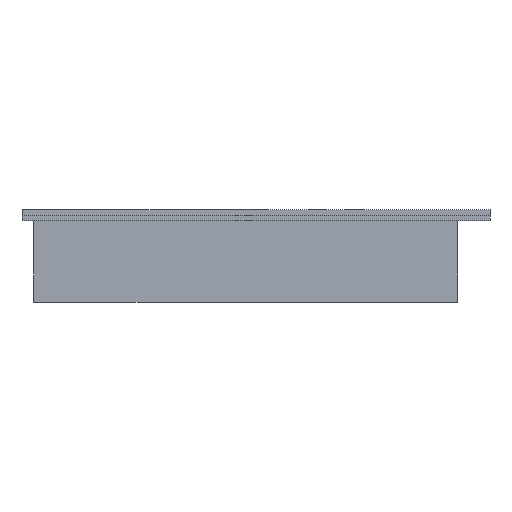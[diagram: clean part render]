
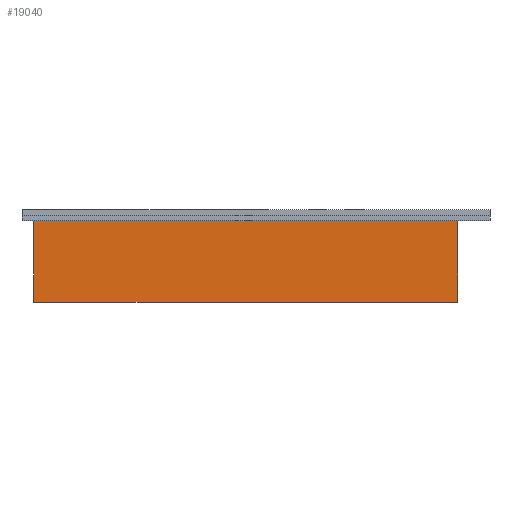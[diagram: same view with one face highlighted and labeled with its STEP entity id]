
A CAD part, left-side view. The second image highlights one B-rep face of the part: STEP entity #19040.
In plain terms, the highlighted planar face has unit normal (-1, 0, 0).
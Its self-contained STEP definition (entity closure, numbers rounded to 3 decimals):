
#159 = PLANE('',#160);
#160 = AXIS2_PLACEMENT_3D('',#161,#162,#163);
#161 = CARTESIAN_POINT('',(-0.3,-75.35,15.6));
#162 = DIRECTION('',(0.,0.,1.));
#163 = DIRECTION('',(1.,0.,0.));
#8325 = VERTEX_POINT('',#8326);
#8326 = CARTESIAN_POINT('',(-0.2,-70.,15.6));
#8339 = PLANE('',#8340);
#8340 = AXIS2_PLACEMENT_3D('',#8341,#8342,#8343);
#8341 = CARTESIAN_POINT('',(-0.2,-70.,1.9));
#8342 = DIRECTION('',(0.,1.,0.));
#8343 = DIRECTION('',(0.,0.,1.));
#8350 = EDGE_CURVE('',#8325,#8351,#8353,.T.);
#8351 = VERTEX_POINT('',#8352);
#8352 = CARTESIAN_POINT('',(-0.2,0.,15.6));
#8353 = SURFACE_CURVE('',#8354,(#8358,#8364),.PCURVE_S1.);
#8354 = LINE('',#8355,#8356);
#8355 = CARTESIAN_POINT('',(-0.2,-72.675,15.6));
#8356 = VECTOR('',#8357,1.);
#8357 = DIRECTION('',(0.,1.,0.));
#8358 = PCURVE('',#159,#8359);
#8359 = DEFINITIONAL_REPRESENTATION('',(#8360),#8363);
#8360 = B_SPLINE_CURVE_WITH_KNOTS('',1,(#8361,#8362),.UNSPECIFIED.,.F.,
  .F.,(2,2),(2.675,72.675),.PIECEWISE_BEZIER_KNOTS.);
#8361 = CARTESIAN_POINT('',(0.1,5.35));
#8362 = CARTESIAN_POINT('',(0.1,75.35));
#8363 = ( GEOMETRIC_REPRESENTATION_CONTEXT(2) 
PARAMETRIC_REPRESENTATION_CONTEXT() REPRESENTATION_CONTEXT('2D SPACE',''
  ) );
#8364 = PCURVE('',#8365,#8370);
#8365 = PLANE('',#8366);
#8366 = AXIS2_PLACEMENT_3D('',#8367,#8368,#8369);
#8367 = CARTESIAN_POINT('',(-0.2,-70.,1.9));
#8368 = DIRECTION('',(1.,0.,0.));
#8369 = DIRECTION('',(0.,0.,1.));
#8370 = DEFINITIONAL_REPRESENTATION('',(#8371),#8374);
#8371 = B_SPLINE_CURVE_WITH_KNOTS('',1,(#8372,#8373),.UNSPECIFIED.,.F.,
  .F.,(2,2),(2.675,72.675),.PIECEWISE_BEZIER_KNOTS.);
#8372 = CARTESIAN_POINT('',(13.7,0.));
#8373 = CARTESIAN_POINT('',(13.7,-70.));
#8374 = ( GEOMETRIC_REPRESENTATION_CONTEXT(2) 
PARAMETRIC_REPRESENTATION_CONTEXT() REPRESENTATION_CONTEXT('2D SPACE',''
  ) );
#8391 = PLANE('',#8392);
#8392 = AXIS2_PLACEMENT_3D('',#8393,#8394,#8395);
#8393 = CARTESIAN_POINT('',(-0.2,0.,1.9));
#8394 = DIRECTION('',(0.,1.,0.));
#8395 = DIRECTION('',(0.,0.,1.));
#18943 = VERTEX_POINT('',#18944);
#18944 = CARTESIAN_POINT('',(-0.2,-70.,1.9));
#18958 = PLANE('',#18959);
#18959 = AXIS2_PLACEMENT_3D('',#18960,#18961,#18962);
#18960 = CARTESIAN_POINT('',(-0.2,-70.,1.9));
#18961 = DIRECTION('',(0.,0.,1.));
#18962 = DIRECTION('',(1.,0.,0.));
#18970 = EDGE_CURVE('',#18943,#8325,#18971,.T.);
#18971 = SURFACE_CURVE('',#18972,(#18976,#18983),.PCURVE_S1.);
#18972 = LINE('',#18973,#18974);
#18973 = CARTESIAN_POINT('',(-0.2,-70.,1.9));
#18974 = VECTOR('',#18975,1.);
#18975 = DIRECTION('',(0.,0.,1.));
#18976 = PCURVE('',#8339,#18977);
#18977 = DEFINITIONAL_REPRESENTATION('',(#18978),#18982);
#18978 = LINE('',#18979,#18980);
#18979 = CARTESIAN_POINT('',(0.,0.));
#18980 = VECTOR('',#18981,1.);
#18981 = DIRECTION('',(1.,0.));
#18982 = ( GEOMETRIC_REPRESENTATION_CONTEXT(2) 
PARAMETRIC_REPRESENTATION_CONTEXT() REPRESENTATION_CONTEXT('2D SPACE',''
  ) );
#18983 = PCURVE('',#8365,#18984);
#18984 = DEFINITIONAL_REPRESENTATION('',(#18985),#18989);
#18985 = LINE('',#18986,#18987);
#18986 = CARTESIAN_POINT('',(0.,0.));
#18987 = VECTOR('',#18988,1.);
#18988 = DIRECTION('',(1.,0.));
#18989 = ( GEOMETRIC_REPRESENTATION_CONTEXT(2) 
PARAMETRIC_REPRESENTATION_CONTEXT() REPRESENTATION_CONTEXT('2D SPACE',''
  ) );
#19040 = ADVANCED_FACE('',(#19041),#8365,.F.);
#19041 = FACE_BOUND('',#19042,.F.);
#19042 = EDGE_LOOP('',(#19043,#19044,#19067,#19088));
#19043 = ORIENTED_EDGE('',*,*,#18970,.F.);
#19044 = ORIENTED_EDGE('',*,*,#19045,.T.);
#19045 = EDGE_CURVE('',#18943,#19046,#19048,.T.);
#19046 = VERTEX_POINT('',#19047);
#19047 = CARTESIAN_POINT('',(-0.2,0.,1.9));
#19048 = SURFACE_CURVE('',#19049,(#19053,#19060),.PCURVE_S1.);
#19049 = LINE('',#19050,#19051);
#19050 = CARTESIAN_POINT('',(-0.2,-70.,1.9));
#19051 = VECTOR('',#19052,1.);
#19052 = DIRECTION('',(0.,1.,0.));
#19053 = PCURVE('',#8365,#19054);
#19054 = DEFINITIONAL_REPRESENTATION('',(#19055),#19059);
#19055 = LINE('',#19056,#19057);
#19056 = CARTESIAN_POINT('',(0.,0.));
#19057 = VECTOR('',#19058,1.);
#19058 = DIRECTION('',(0.,-1.));
#19059 = ( GEOMETRIC_REPRESENTATION_CONTEXT(2) 
PARAMETRIC_REPRESENTATION_CONTEXT() REPRESENTATION_CONTEXT('2D SPACE',''
  ) );
#19060 = PCURVE('',#18958,#19061);
#19061 = DEFINITIONAL_REPRESENTATION('',(#19062),#19066);
#19062 = LINE('',#19063,#19064);
#19063 = CARTESIAN_POINT('',(0.,0.));
#19064 = VECTOR('',#19065,1.);
#19065 = DIRECTION('',(0.,1.));
#19066 = ( GEOMETRIC_REPRESENTATION_CONTEXT(2) 
PARAMETRIC_REPRESENTATION_CONTEXT() REPRESENTATION_CONTEXT('2D SPACE',''
  ) );
#19067 = ORIENTED_EDGE('',*,*,#19068,.T.);
#19068 = EDGE_CURVE('',#19046,#8351,#19069,.T.);
#19069 = SURFACE_CURVE('',#19070,(#19074,#19081),.PCURVE_S1.);
#19070 = LINE('',#19071,#19072);
#19071 = CARTESIAN_POINT('',(-0.2,0.,1.9));
#19072 = VECTOR('',#19073,1.);
#19073 = DIRECTION('',(0.,0.,1.));
#19074 = PCURVE('',#8365,#19075);
#19075 = DEFINITIONAL_REPRESENTATION('',(#19076),#19080);
#19076 = LINE('',#19077,#19078);
#19077 = CARTESIAN_POINT('',(0.,-70.));
#19078 = VECTOR('',#19079,1.);
#19079 = DIRECTION('',(1.,0.));
#19080 = ( GEOMETRIC_REPRESENTATION_CONTEXT(2) 
PARAMETRIC_REPRESENTATION_CONTEXT() REPRESENTATION_CONTEXT('2D SPACE',''
  ) );
#19081 = PCURVE('',#8391,#19082);
#19082 = DEFINITIONAL_REPRESENTATION('',(#19083),#19087);
#19083 = LINE('',#19084,#19085);
#19084 = CARTESIAN_POINT('',(0.,0.));
#19085 = VECTOR('',#19086,1.);
#19086 = DIRECTION('',(1.,0.));
#19087 = ( GEOMETRIC_REPRESENTATION_CONTEXT(2) 
PARAMETRIC_REPRESENTATION_CONTEXT() REPRESENTATION_CONTEXT('2D SPACE',''
  ) );
#19088 = ORIENTED_EDGE('',*,*,#8350,.F.);
